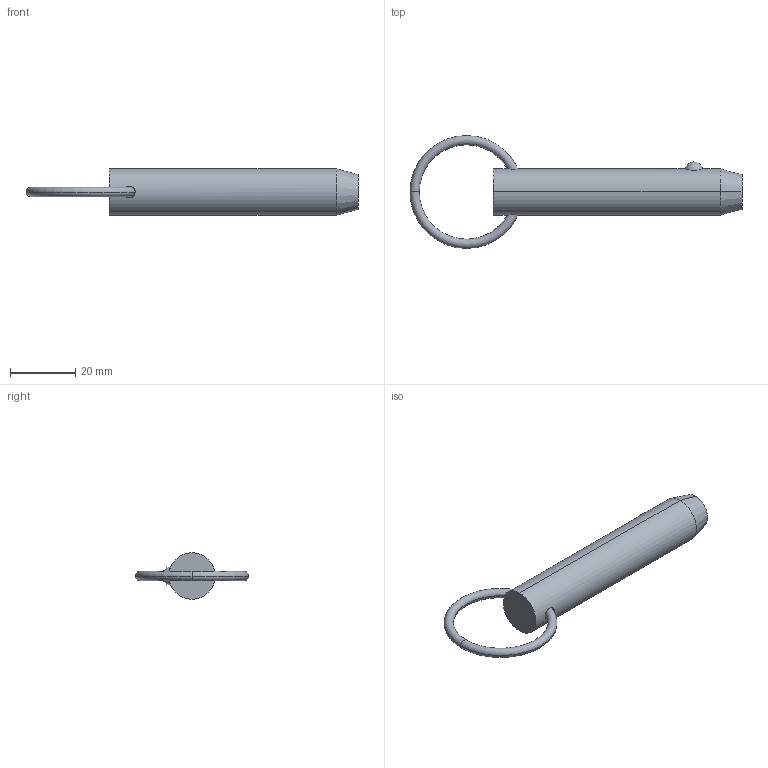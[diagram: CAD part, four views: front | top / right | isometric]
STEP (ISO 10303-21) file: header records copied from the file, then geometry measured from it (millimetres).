
FILE_DESCRIPTION (( 'STEP AP203' ), '1' );
FILE_NAME ('33010.W5620.step', '2024-11-01T10:39:49', ( '' ), ( '' ), 'SwSTEP 2.0', 'SolidWorks 2019', '' );
FILE_SCHEMA (( 'CONFIG_CONTROL_DESIGN' ));
Length unit declared in the file: millimetre
Products named in the file (3): Part1_33010.W5620; 33010.W5620; Part2_33010.W5620
Assembly tree (2 placements, depth 2):
  33010.W5620
    Part1_33010.W5620
    Part2_33010.W5620
Bounding box: 101.7 x 34.59 x 14.22 mm (x, y, z)
Volume: 12376 mm3; surface area: 4671.2 mm2
Topology: 2 solids, 2 shells, 16 faces, 31 edges, 18 vertices
Faces by surface type: torus 8, sphere 2, cone 2, cylinder 2, plane 2
Entity records: 875 total; most frequent: CARTESIAN_POINT 232, DIRECTION 88, ORIENTED_EDGE 62, AXIS2_PLACEMENT_3D 42, EDGE_CURVE 31, PERSON_AND_ORGANIZATION 26, CIRCLE 21, LOCAL_TIME 19
